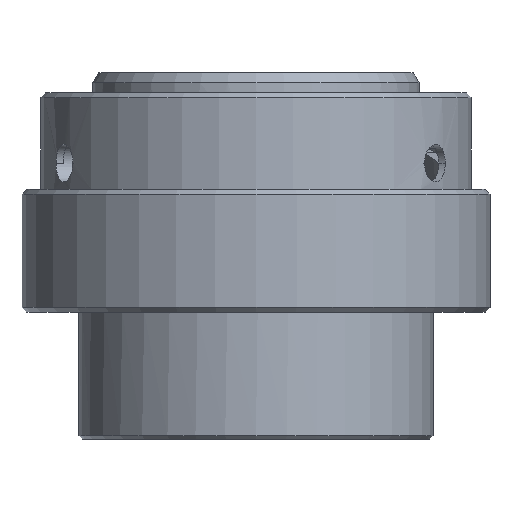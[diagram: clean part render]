
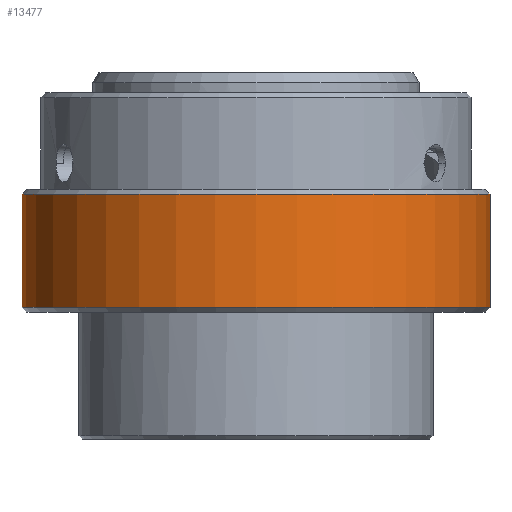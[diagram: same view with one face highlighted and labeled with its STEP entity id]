
A CAD part, left-side view. The second image highlights one B-rep face of the part: STEP entity #13477.
In plain terms, the highlighted cylindrical face has radius 24.664 mm (diameter 49.328 mm), a partial arc.
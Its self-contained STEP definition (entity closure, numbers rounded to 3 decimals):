
#168=DIRECTION('',(0.,0.,1.));
#169=VECTOR('',#168,11.938);
#170=CARTESIAN_POINT('',(0.,24.664,-22.606));
#171=LINE('',#170,#169);
#172=DIRECTION('',(0.,0.,1.));
#173=VECTOR('',#172,11.938);
#174=CARTESIAN_POINT('',(0.,-24.664,-22.606));
#175=LINE('',#174,#173);
#176=CARTESIAN_POINT('',(0.,0.,-22.606));
#177=DIRECTION('',(0.,0.,1.));
#178=DIRECTION('',(0.,1.,0.));
#179=AXIS2_PLACEMENT_3D('',#176,#177,#178);
#189=CARTESIAN_POINT('',(0.,0.,-10.668));
#190=DIRECTION('',(0.,0.,1.));
#191=DIRECTION('',(0.,1.,0.));
#192=AXIS2_PLACEMENT_3D('',#189,#190,#191);
#10690=CARTESIAN_POINT('',(0.,24.664,-22.606));
#10691=CARTESIAN_POINT('',(0.,24.664,-10.668));
#10692=VERTEX_POINT('',#10690);
#10693=VERTEX_POINT('',#10691);
#10696=CARTESIAN_POINT('',(0.,-24.664,-22.606));
#10697=CARTESIAN_POINT('',(0.,-24.664,-10.668));
#10698=VERTEX_POINT('',#10696);
#10699=VERTEX_POINT('',#10697);
#13465=CARTESIAN_POINT('',(0.,0.,1.156));
#13466=DIRECTION('',(0.,0.,-1.));
#13467=DIRECTION('',(0.,-1.,0.));
#13468=AXIS2_PLACEMENT_3D('',#13465,#13466,#13467);
#13469=CYLINDRICAL_SURFACE('',#13468,24.664);
#13470=ORIENTED_EDGE('',*,*,#13455,.T.);
#13472=ORIENTED_EDGE('',*,*,#13471,.T.);
#13473=ORIENTED_EDGE('',*,*,#13458,.F.);
#13474=ORIENTED_EDGE('',*,*,#13429,.F.);
#13475=EDGE_LOOP('',(#13470,#13472,#13473,#13474));
#13476=FACE_OUTER_BOUND('',#13475,.F.);
#13477=ADVANCED_FACE('',(#13476),#13469,.T.);
#180=CIRCLE('',#179,24.664);
#193=CIRCLE('',#192,24.664);
#13429=EDGE_CURVE('',#10692,#10698,#180,.T.);
#13455=EDGE_CURVE('',#10692,#10693,#171,.T.);
#13458=EDGE_CURVE('',#10698,#10699,#175,.T.);
#13471=EDGE_CURVE('',#10693,#10699,#193,.T.);
